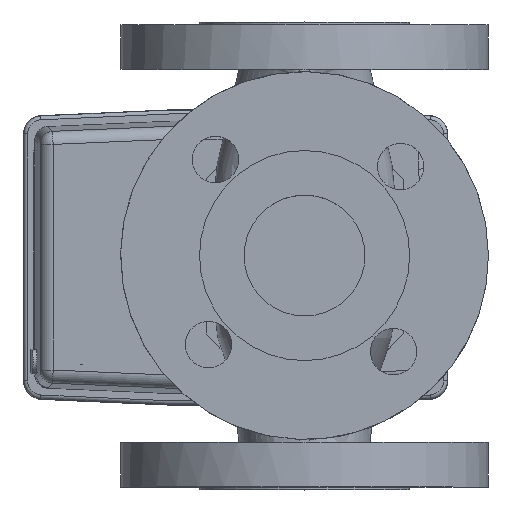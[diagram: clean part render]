
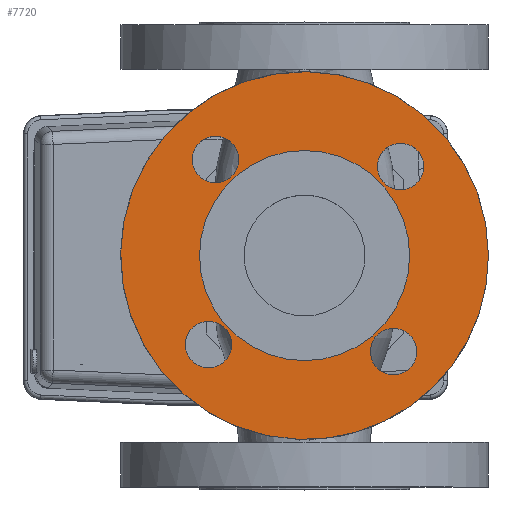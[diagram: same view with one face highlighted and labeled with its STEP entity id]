
A CAD part, top view. The second image highlights one B-rep face of the part: STEP entity #7720.
In plain terms, the highlighted planar face has unit normal (0, 0, 1).
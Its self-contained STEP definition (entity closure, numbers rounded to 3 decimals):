
#1602=ORIENTED_EDGE('',*,*,#2840,.T.);
#1603=ORIENTED_EDGE('',*,*,#2857,.F.);
#1604=ORIENTED_EDGE('',*,*,#2858,.F.);
#1605=ORIENTED_EDGE('',*,*,#2859,.F.);
#1606=ORIENTED_EDGE('',*,*,#2860,.F.);
#1607=ORIENTED_EDGE('',*,*,#2861,.F.);
#2840=EDGE_CURVE('',#3505,#3505,#3990,.T.);
#2857=EDGE_CURVE('',#3522,#3522,#4007,.T.);
#2858=EDGE_CURVE('',#3523,#3523,#4008,.T.);
#2859=EDGE_CURVE('',#3524,#3524,#4009,.T.);
#2860=EDGE_CURVE('',#3525,#3525,#4010,.T.);
#2861=EDGE_CURVE('',#3526,#3526,#4011,.T.);
#3505=VERTEX_POINT('',#11118);
#3522=VERTEX_POINT('',#11165);
#3523=VERTEX_POINT('',#11167);
#3524=VERTEX_POINT('',#11169);
#3525=VERTEX_POINT('',#11171);
#3526=VERTEX_POINT('',#11173);
#3990=CIRCLE('',#8201,40.);
#4007=CIRCLE('',#8231,70.);
#4008=CIRCLE('',#8232,8.85);
#4009=CIRCLE('',#8233,8.85);
#4010=CIRCLE('',#8234,8.85);
#4011=CIRCLE('',#8235,8.85);
#4350=EDGE_LOOP('',(#1602));
#4351=EDGE_LOOP('',(#1603));
#4352=EDGE_LOOP('',(#1604));
#4353=EDGE_LOOP('',(#1605));
#4354=EDGE_LOOP('',(#1606));
#4355=EDGE_LOOP('',(#1607));
#4797=FACE_BOUND('',#4350,.T.);
#4798=FACE_BOUND('',#4351,.T.);
#4799=FACE_BOUND('',#4352,.T.);
#4800=FACE_BOUND('',#4353,.T.);
#4801=FACE_BOUND('',#4354,.T.);
#4802=FACE_BOUND('',#4355,.T.);
#5080=PLANE('',#8230);
#7720=ADVANCED_FACE('',(#4797,#4798,#4799,#4800,#4801,#4802),#5080,.F.);
#8201=AXIS2_PLACEMENT_3D('',#11117,#9241,#9242);
#8230=AXIS2_PLACEMENT_3D('',#11163,#9299,#9300);
#8231=AXIS2_PLACEMENT_3D('',#11164,#9301,#9302);
#8232=AXIS2_PLACEMENT_3D('',#11166,#9303,#9304);
#8233=AXIS2_PLACEMENT_3D('',#11168,#9305,#9306);
#8234=AXIS2_PLACEMENT_3D('',#11170,#9307,#9308);
#8235=AXIS2_PLACEMENT_3D('',#11172,#9309,#9310);
#9241=DIRECTION('',(0.,0.,-1.));
#9242=DIRECTION('',(1.,0.,0.));
#9299=DIRECTION('',(0.,0.,-1.));
#9300=DIRECTION('',(1.,0.,0.));
#9301=DIRECTION('',(0.,0.,-1.));
#9302=DIRECTION('',(1.,0.,0.));
#9303=DIRECTION('',(0.,0.,1.));
#9304=DIRECTION('',(-1.,0.,0.));
#9305=DIRECTION('',(0.,0.,1.));
#9306=DIRECTION('',(-1.,0.,0.));
#9307=DIRECTION('',(0.,0.,1.));
#9308=DIRECTION('',(-1.,0.,0.));
#9309=DIRECTION('',(0.,0.,1.));
#9310=DIRECTION('',(-1.,0.,0.));
#11117=CARTESIAN_POINT('',(0.755,0.055,307.5));
#11118=CARTESIAN_POINT('',(40.755,0.055,307.5));
#11163=CARTESIAN_POINT('',(0.755,0.055,307.5));
#11164=CARTESIAN_POINT('',(0.755,0.055,307.5));
#11165=CARTESIAN_POINT('',(70.755,0.055,307.5));
#11166=CARTESIAN_POINT('',(37.319,33.939,307.5));
#11167=CARTESIAN_POINT('',(28.469,33.939,307.5));
#11168=CARTESIAN_POINT('',(34.639,-36.509,307.5));
#11169=CARTESIAN_POINT('',(25.789,-36.509,307.5));
#11170=CARTESIAN_POINT('',(-35.808,-33.829,307.5));
#11171=CARTESIAN_POINT('',(-44.658,-33.829,307.5));
#11172=CARTESIAN_POINT('',(-33.129,36.618,307.5));
#11173=CARTESIAN_POINT('',(-41.979,36.618,307.5));
